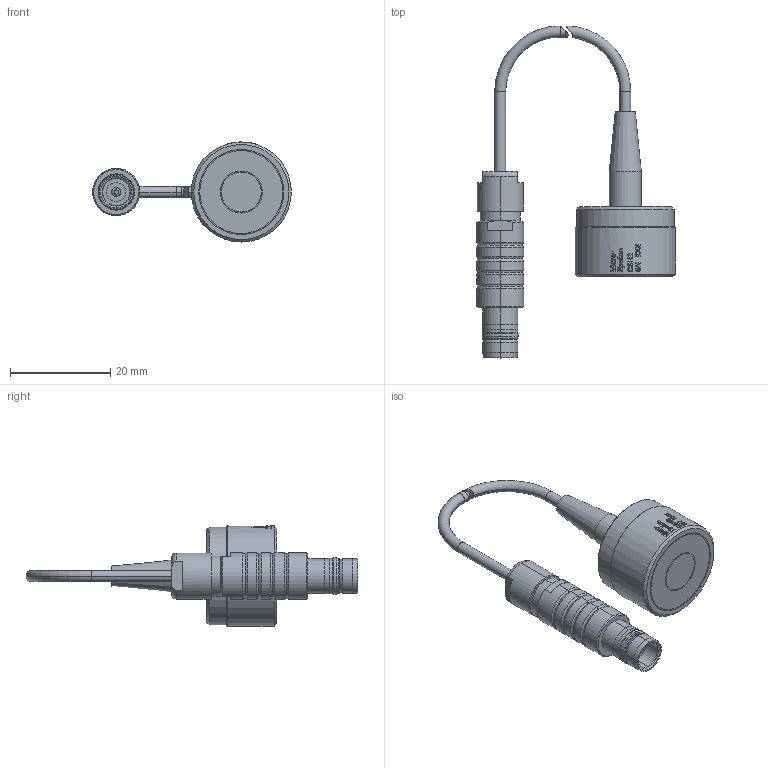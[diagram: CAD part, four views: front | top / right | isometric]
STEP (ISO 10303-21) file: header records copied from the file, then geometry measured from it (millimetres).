
FILE_DESCRIPTION((''),'2;1');
FILE_NAME('Z6610107-A_ASM','2011-02-11T',('11000065'),(''),'PRO/ENGINEER BY PARAMETRIC TECHNOLOGY CORPORATION, 2010370','PRO/ENGINEER BY PARAMETRIC TECHNOLOGY CORPORATION, 2010370','');
FILE_SCHEMA(('AUTOMOTIVE_DESIGN { 1 0 10303 214 1 1 1 1 }'));
Length unit declared in the file: millimetre
Products named in the file (3): Z6610107-A_AF0; 0323139; Z6610107-A_ASM
Assembly tree (2 placements, depth 2):
  Z6610107-A_ASM
    Z6610107-A_AF0
    0323139
Bounding box: 39.7 x 66.36 x 20.01 mm (x, y, z)
Volume: 7051.8 mm3; surface area: 3527.9 mm2
Topology: 3 solids, 3 shells, 769 faces, 2088 edges, 1368 vertices
Faces by surface type: plane 626, cylinder 78, cone 34, torus 27, extrusion 2, bspline 2
Entity records: 25469 total; most frequent: CARTESIAN_POINT 6222, ORIENTED_EDGE 4176, DIRECTION 3105, EDGE_CURVE 2088, VERTEX_POINT 1368, AXIS2_PLACEMENT_3D 1112, VECTOR 881, LINE 879
